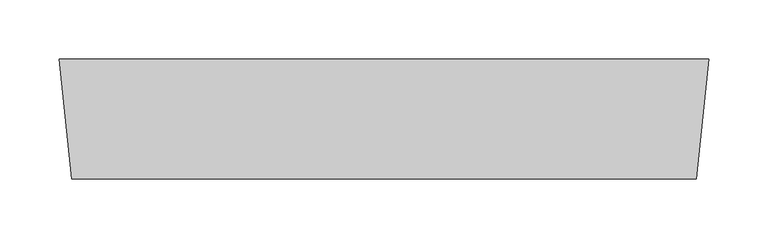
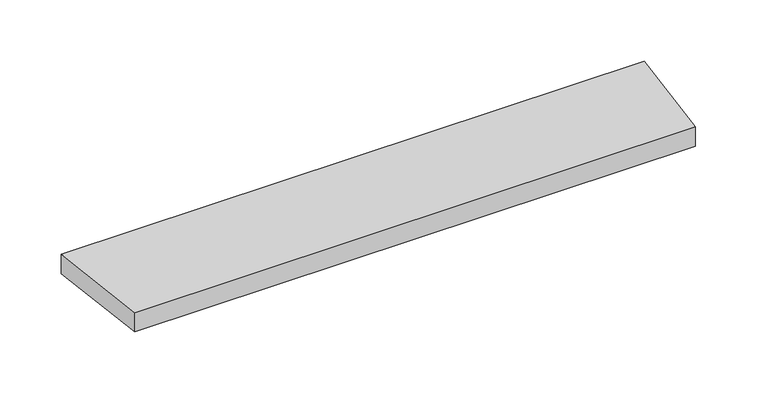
"""IFC4 building model written with IfcOpenShell, lengths in millimetres: proxy geometry, IMPRESS^TABLE 2_24in BASE^END KEEL."""

import ifcopenshell
import ifcopenshell.guid

model = None  # the IFC model being written
_history = None  # IfcOwnerHistory: only IFC2X3 demands one
_inside = {}  # id of a spatial element -> (the spatial element, [elements in it])
_under = {}  # id of a project, library or spatial element -> (it, [spatial elements below it])
_declared = {}  # id of a project -> (the project, [libraries it declares])
_typed = {}  # id of a type object -> (the type object, [elements of that type])
_made_of = {}  # id of a material, layer set ... -> (it, [elements and type objects made of it])


def new_model(schema):
    """Start an empty IFC model of exactly this schema.

    Asked for "IFC4X3", IfcOpenShell would pick the latest addendum, in which some entities
    have other attributes; the version numbers below select the first issue.
    IFC2X3 requires an IfcOwnerHistory on every rooted entity: one is made here for all.
    """
    global model, _history
    if schema == "IFC4X3":
        model = ifcopenshell.file(schema_version=(4, 3, 0, 0))
    else:
        model = ifcopenshell.file(schema=schema)
    _inside.clear()
    _under.clear()
    _declared.clear()
    _typed.clear()
    _made_of.clear()
    _history = None
    if model.schema == "IFC2X3":
        org = make("IfcOrganization", Name="unknown")
        user = make(
            "IfcPersonAndOrganization",
            ThePerson=make("IfcPerson", FamilyName="unknown"),
            TheOrganization=org,
        )
        app = make(
            "IfcApplication",
            ApplicationDeveloper=org,
            Version="unknown",
            ApplicationFullName="unknown",
            ApplicationIdentifier="unknown",
        )
        _history = make(
            "IfcOwnerHistory",
            OwningUser=user,
            OwningApplication=app,
            ChangeAction="ADDED",
            CreationDate=0,
        )
    return model


def make(cls, **values):
    """One entity of the class cls with the attributes given. An attribute that is None is left unset."""
    return model.create_entity(
        cls, **{name: value for name, value in values.items() if value is not None}
    )


def rooted(cls, **values):
    """An entity with a GlobalId (a new one), such as an element, a storey or a relation."""
    return make(cls, GlobalId=ifcopenshell.guid.new(), OwnerHistory=_history, **values)


def si_unit(unit_type, name, prefix=None):
    """IfcSIUnit, for example si_unit("LENGTHUNIT", "METRE", prefix="MILLI")."""
    return make("IfcSIUnit", UnitType=unit_type, Prefix=prefix, Name=name)


def assignment(units):
    """IfcUnitAssignment: the units of a project."""
    return None if units is None else make("IfcUnitAssignment", Units=units)


def point(xyz):
    """IfcCartesianPoint."""
    return None if xyz is None else make("IfcCartesianPoint", Coordinates=xyz)


def direction(xyz):
    """IfcDirection."""
    return None if xyz is None else make("IfcDirection", DirectionRatios=xyz)


def frame(location, z_axis=None, x_axis=None):
    """IfcAxis2Placement3D, a coordinate frame: its origin and axes. An axis left out is left unset."""
    return make(
        "IfcAxis2Placement3D",
        Location=point(location),
        Axis=direction(z_axis),
        RefDirection=direction(x_axis),
    )


def origin():
    """The frame at (0, 0, 0) with its axes left unset."""
    return frame((0.0, 0.0, 0.0))


def origin_with_axes():
    """The frame at (0, 0, 0) with the z axis (0, 0, 1) and the x axis (1, 0, 0) written out."""
    return frame((0.0, 0.0, 0.0), z_axis=(0.0, 0.0, 1.0), x_axis=(1.0, 0.0, 0.0))


def place(relative_to, where):
    """IfcLocalPlacement: puts the frame where relative to a parent placement (None: the world)."""
    return make(
        "IfcLocalPlacement", PlacementRelTo=relative_to, RelativePlacement=where
    )


def context(
    kind, dimensions, precision=None, world=None, true_north=None, identifier=None
):
    """IfcGeometricRepresentationContext, for example the 3D "Model" context."""
    return make(
        "IfcGeometricRepresentationContext",
        ContextIdentifier=identifier,
        ContextType=kind,
        CoordinateSpaceDimension=dimensions,
        Precision=precision,
        WorldCoordinateSystem=world,
        TrueNorth=true_north,
    )


def project(units=None, contexts=None):
    """IfcProject with its units and contexts."""
    return rooted(
        "IfcProject",
        Name="project",
        RepresentationContexts=contexts,
        UnitsInContext=assignment(units),
    )


def spatial(cls, under=None, at=None, **own):
    """A site, building, storey or space (cls), placed at a placement, below another one or the project."""
    s = rooted(cls, ObjectPlacement=at, **own)
    if under is not None:
        _under.setdefault(under.id(), (under, []))[1].append(s)
    return s


def polyline(points):
    """IfcPolyline through the points."""
    return make("IfcPolyline", Points=[point(p) for p in points])


def outline(outer, holes=None, kind="AREA"):
    """IfcArbitraryClosedProfileDef: a profile drawn as a closed curve; with holes, ...WithVoids."""
    if holes is None:
        return make("IfcArbitraryClosedProfileDef", ProfileType=kind, OuterCurve=outer)
    return make(
        "IfcArbitraryProfileDefWithVoids",
        ProfileType=kind,
        OuterCurve=outer,
        InnerCurves=holes,
    )


def extrude(swept, where, along, depth):
    """IfcExtrudedAreaSolid: the profile swept, set in the frame where, extruded along a direction by depth."""
    return make(
        "IfcExtrudedAreaSolid",
        SweptArea=swept,
        Position=where,
        ExtrudedDirection=direction(along),
        Depth=depth,
    )


def shape(context_of_items, identifier, shape_type, items):
    """IfcShapeRepresentation: the items that make up one representation, for example the "Body"."""
    return make(
        "IfcShapeRepresentation",
        ContextOfItems=context_of_items,
        RepresentationIdentifier=identifier,
        RepresentationType=shape_type,
        Items=items,
    )


def source(mapping_origin, context_of_items, identifier, shape_type, items):
    """IfcRepresentationMap: a shape defined once, which mapped items show again and again."""
    return make(
        "IfcRepresentationMap",
        MappingOrigin=mapping_origin,
        MappedRepresentation=shape(context_of_items, identifier, shape_type, items),
    )


def transform(
    local_origin,
    x_axis=None,
    y_axis=None,
    z_axis=None,
    scale=None,
    scale2=None,
    scale3=None,
    uniform=True,
):
    """IfcCartesianTransformationOperator3D, or its non-uniform kind. x_axis, y_axis, z_axis: its Axis1, 2, 3."""
    if uniform:
        return make(
            "IfcCartesianTransformationOperator3D",
            Axis1=direction(x_axis),
            Axis2=direction(y_axis),
            LocalOrigin=point(local_origin),
            Scale=scale,
            Axis3=direction(z_axis),
        )
    return make(
        "IfcCartesianTransformationOperator3DnonUniform",
        Axis1=direction(x_axis),
        Axis2=direction(y_axis),
        LocalOrigin=point(local_origin),
        Scale=scale,
        Axis3=direction(z_axis),
        Scale2=scale2,
        Scale3=scale3,
    )


def mapped(mapping_source, mapping_target):
    """IfcMappedItem: shows the shape of a source again, moved by a transform."""
    return make(
        "IfcMappedItem", MappingSource=mapping_source, MappingTarget=mapping_target
    )


def made_of(thing, what):
    """Note that an element or type object is made of a material, layer set ...; save() writes the relation."""
    if what is not None:
        _made_of.setdefault(what.id(), (what, []))[1].append(thing)
    return thing


def element(
    cls,
    number,
    at=None,
    inside=None,
    cuts=None,
    type_object=None,
    material=None,
    context=None,
    identifier="Body",
    shape_type=None,
    held_by="IfcProductDefinitionShape",
    body=None,
    shapes=None,
    **own,
):
    """One element of the class cls, such as IfcWall. Its Tag is "e" and its number.

    at: its placement. inside: the storey or other place that contains it. cuts: it is an
    opening in that element (IfcRelVoidsElement). A single representation is given by context,
    identifier, shape_type and body (its items); several are given by shapes. held_by: the class
    of the entity that holds the representations. save() writes the other relations.
    """
    e = rooted(cls, Tag="e%d" % number, ObjectPlacement=at, **own)
    if body is not None:
        shapes = [shape(context, identifier, shape_type, body)]
    if shapes is not None:
        e.Representation = make(held_by, Representations=shapes)
    if inside is not None:
        _inside.setdefault(inside.id(), (inside, []))[1].append(e)
    if cuts is not None:
        rooted(
            "IfcRelVoidsElement", RelatingBuildingElement=cuts, RelatedOpeningElement=e
        )
    if type_object is not None:
        _typed.setdefault(type_object.id(), (type_object, []))[1].append(e)
    return made_of(e, material)


def aggregate(whole, parts):
    """IfcRelAggregates: a whole, such as a stair, and the parts it consists of."""
    return rooted("IfcRelAggregates", RelatingObject=whole, RelatedObjects=parts)


def save(model, path):
    """Write the relations noted so far, then the file.

    IfcRelAggregates (storeys below a building ...), IfcRelContainedInSpatialStructure (elements
    in a storey), IfcRelDefinesByType, IfcRelAssociatesMaterial and IfcRelDeclares: one each for
    every whole, place, type object, material and project.
    """
    for whole, parts in _under.values():
        aggregate(whole, parts)
    for where, things in _inside.values():
        rooted(
            "IfcRelContainedInSpatialStructure",
            RelatedElements=things,
            RelatingStructure=where,
        )
    for kind, things in _typed.values():
        rooted("IfcRelDefinesByType", RelatedObjects=things, RelatingType=kind)
    for what, things in _made_of.values():
        rooted("IfcRelAssociatesMaterial", RelatedObjects=things, RelatingMaterial=what)
    for by, libraries in _declared.values():
        rooted("IfcRelDeclares", RelatingContext=by, RelatedDefinitions=libraries)
    model.write(path)


def generic_models_8f48aeea(model_context):
    return source(origin(), model_context, "Body", "SweptSolid", [
        extrude(outline(polyline([(0.0, 0.0), (549.4416867, 0.0), (538.7630964, -101.6), (10.6785903, -101.6), (0.0, 0.0)])), origin_with_axes(), (0.0, 0.0, 1.0), 19.05),
    ])


if __name__ == "__main__":
    model = new_model("IFC4")
    model_context = context("Model", 3, world=origin())
    ifc_project = project(units=[si_unit("LENGTHUNIT", "METRE", prefix="MILLI")], contexts=[model_context])
    site = spatial("IfcSite", under=ifc_project)
    building = spatial("IfcBuilding", under=site)
    placement = place(None, origin())
    generic_models_shape = generic_models_8f48aeea(model_context)
    element("IfcBuildingElementProxy", 1, Name="IMPRESS^TABLE 2_24in BASE^END KEEL", ObjectType="IMPRESS^TABLE 2_24in BASE^END KEEL", at=placement, inside=building, context=model_context, shape_type="MappedRepresentation", body=[
        mapped(generic_models_shape, transform((0.0, 0.0, 0.0), x_axis=(1.0, 0.0, 0.0), y_axis=(0.0, 1.0, 0.0), z_axis=(0.0, 0.0, 1.0))),
    ])
    save(model, "model.ifc")
